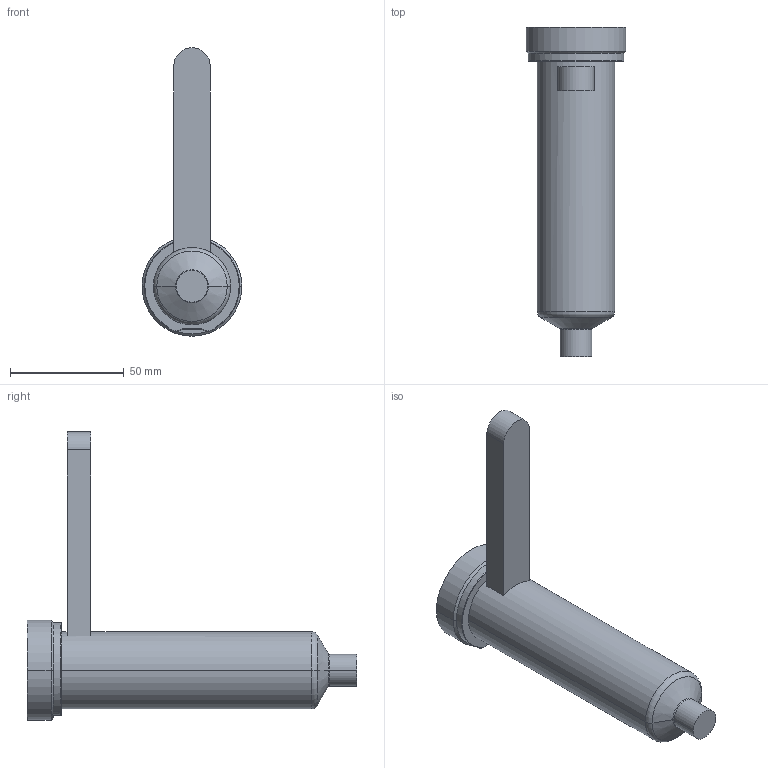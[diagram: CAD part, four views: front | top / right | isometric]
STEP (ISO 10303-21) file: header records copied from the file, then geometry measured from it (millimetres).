
FILE_DESCRIPTION((''),'2;1');
FILE_NAME('EO10_VG-FBE_STD_120_COT','2024-02-19T13:59:31',('sundharh'),(''),'CREO PARAMETRIC BY PTC INC, 2023154','CREO PARAMETRIC BY PTC INC, 2023154','');
FILE_SCHEMA(('CONFIG_CONTROL_DESIGN'));
Length unit declared in the file: millimetre
Products named in the file (1): EO10_VG-FBE_STD_120_COT
Bounding box: 44 x 145 x 127 mm (x, y, z)
Volume: 143046.1 mm3; surface area: 22168.9 mm2
Topology: 1 solids, 1 shells, 31 faces, 67 edges, 40 vertices
Faces by surface type: cylinder 11, plane 9, torus 7, cone 4
Entity records: 959 total; most frequent: CARTESIAN_POINT 226, DIRECTION 159, ORIENTED_EDGE 134, AXIS2_PLACEMENT_3D 67, EDGE_CURVE 67, VERTEX_POINT 40, CIRCLE 36, EDGE_LOOP 33
